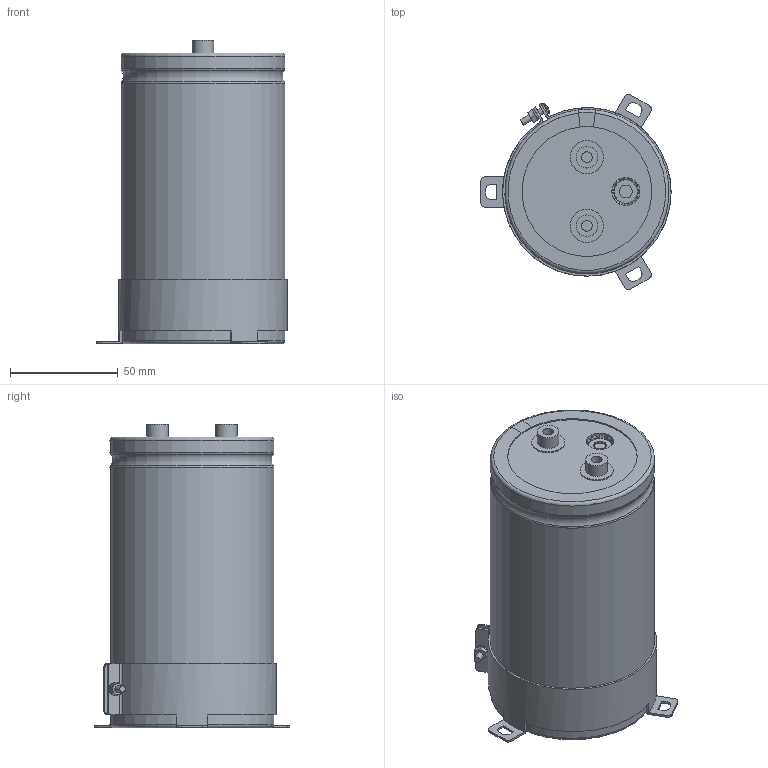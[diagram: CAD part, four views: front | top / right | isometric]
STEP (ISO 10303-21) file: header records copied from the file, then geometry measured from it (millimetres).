
FILE_DESCRIPTION(/* description */ (''),/* implementation_level */ '2;1');
FILE_NAME(/* name */ '76.2x135_Screw.stp',/* time_stamp */ '2017-09-17T13:29:30+09:00',/* author */ (''),/* organization */ (''),/* preprocessor_version */ 'ST-DEVELOPER v16',/* originating_system */ 'SIEMENS PLM Software NX 11.0',/* authorisation */ '');
FILE_SCHEMA (('AUTOMOTIVE_DESIGN { 1 0 10303 214 3 1 1 1 }'));
Length unit declared in the file: millimetre
Products named in the file (1): 76.2x135_Screw
Bounding box: 88.3 x 90.75 x 141 mm (x, y, z)
Volume: 618036.2 mm3; surface area: 126959.1 mm2
Topology: 9 solids, 9 shells, 259 faces, 642 edges, 413 vertices
Faces by surface type: plane 112, cylinder 66, torus 49, cone 31, sphere 1
Full cylindrical faces by diameter (mm): 3 x5, 5 x2, 5.5 x2, 6 x4, 8 x1, 10 x2, 13 x2, 15.5 x2, 75 x2
Entity records: 8534 total; most frequent: CARTESIAN_POINT 2182, DIRECTION 1296, ORIENTED_EDGE 1214, EDGE_CURVE 607, AXIS2_PLACEMENT_3D 541, VERTEX_POINT 408, EDGE_LOOP 317, CIRCLE 281
